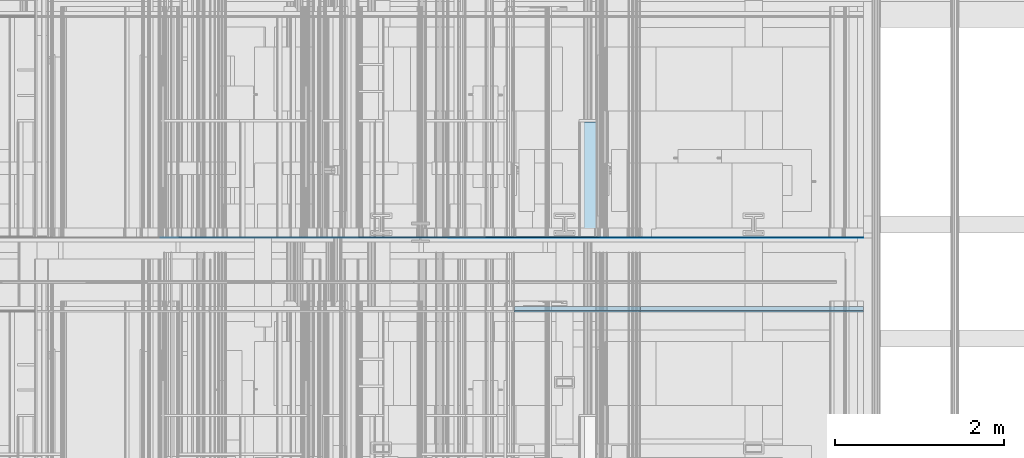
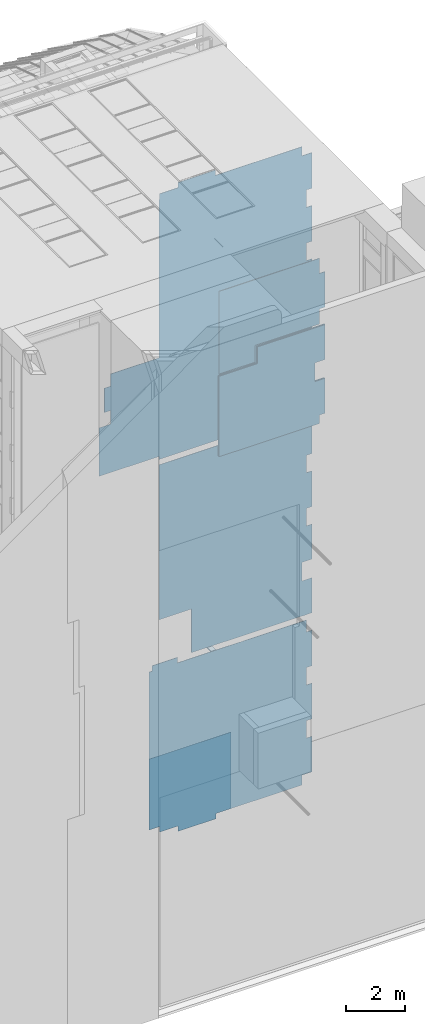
# One storey, part 255 of 583: 13 slabs.
"""IFC2X3 building model written with IfcOpenShell, lengths in metres."""

import ifcopenshell
import ifcopenshell.guid

model = None  # the IFC model being written
_history = None  # IfcOwnerHistory: only IFC2X3 demands one
_inside = {}  # id of a spatial element -> (the spatial element, [elements in it])
_under = {}  # id of a project, library or spatial element -> (it, [spatial elements below it])
_declared = {}  # id of a project -> (the project, [libraries it declares])
_typed = {}  # id of a type object -> (the type object, [elements of that type])
_made_of = {}  # id of a material, layer set ... -> (it, [elements and type objects made of it])


def new_model(schema):
    """Start an empty IFC model of exactly this schema.

    Asked for "IFC4X3", IfcOpenShell would pick the latest addendum, in which some entities
    have other attributes; the version numbers below select the first issue.
    IFC2X3 requires an IfcOwnerHistory on every rooted entity: one is made here for all.
    """
    global model, _history
    if schema == "IFC4X3":
        model = ifcopenshell.file(schema_version=(4, 3, 0, 0))
    else:
        model = ifcopenshell.file(schema=schema)
    _inside.clear()
    _under.clear()
    _declared.clear()
    _typed.clear()
    _made_of.clear()
    _history = None
    if model.schema == "IFC2X3":
        org = make("IfcOrganization", Name="unknown")
        user = make(
            "IfcPersonAndOrganization",
            ThePerson=make("IfcPerson", FamilyName="unknown"),
            TheOrganization=org,
        )
        app = make(
            "IfcApplication",
            ApplicationDeveloper=org,
            Version="unknown",
            ApplicationFullName="unknown",
            ApplicationIdentifier="unknown",
        )
        _history = make(
            "IfcOwnerHistory",
            OwningUser=user,
            OwningApplication=app,
            ChangeAction="ADDED",
            CreationDate=0,
        )
    return model


def make(cls, **values):
    """One entity of the class cls with the attributes given. An attribute that is None is left unset."""
    return model.create_entity(
        cls, **{name: value for name, value in values.items() if value is not None}
    )


def entity(cls, *values):
    """Any entity or typed value of the class cls, its attributes in the order of the schema. None: left unset."""
    e = model.create_entity(cls)
    for i, value in enumerate(values):
        if value is not None:
            e[i] = value
    return e


def rooted(cls, **values):
    """An entity with a GlobalId (a new one), such as an element, a storey or a relation."""
    return make(cls, GlobalId=ifcopenshell.guid.new(), OwnerHistory=_history, **values)


def si_unit(unit_type, name, prefix=None):
    """IfcSIUnit, for example si_unit("LENGTHUNIT", "METRE", prefix="MILLI")."""
    return make("IfcSIUnit", UnitType=unit_type, Prefix=prefix, Name=name)


def converted_unit(unit_type, name, factor, base, dimensions=None, offset=None):
    """IfcConversionBasedUnit, such as the inch: factor (a typed value) times the base unit."""
    return make(
        "IfcConversionBasedUnit"
        if offset is None
        else "IfcConversionBasedUnitWithOffset",
        ConversionOffset=offset,
        Dimensions=None
        if dimensions is None
        else entity("IfcDimensionalExponents", *dimensions),
        UnitType=unit_type,
        Name=name,
        ConversionFactor=make(
            "IfcMeasureWithUnit", ValueComponent=factor, UnitComponent=base
        ),
    )


def derived_unit(unit_type, elements):
    """IfcDerivedUnit: a product of units, each with its exponent."""
    return make(
        "IfcDerivedUnit",
        Elements=[
            make("IfcDerivedUnitElement", Unit=unit, Exponent=power)
            for unit, power in elements
        ],
        UnitType=unit_type,
    )


def money_unit(currency):
    """IfcMonetaryUnit."""
    return make("IfcMonetaryUnit", Currency=currency)


def assignment(units):
    """IfcUnitAssignment: the units of a project."""
    return None if units is None else make("IfcUnitAssignment", Units=units)


def point(xyz):
    """IfcCartesianPoint."""
    return None if xyz is None else make("IfcCartesianPoint", Coordinates=xyz)


def direction(xyz):
    """IfcDirection."""
    return None if xyz is None else make("IfcDirection", DirectionRatios=xyz)


def frame(location, z_axis=None, x_axis=None):
    """IfcAxis2Placement3D, a coordinate frame: its origin and axes. An axis left out is left unset."""
    return make(
        "IfcAxis2Placement3D",
        Location=point(location),
        Axis=direction(z_axis),
        RefDirection=direction(x_axis),
    )


def origin_with_axes():
    """The frame at (0, 0, 0) with the z axis (0, 0, 1) and the x axis (1, 0, 0) written out."""
    return frame((0.0, 0.0, 0.0), z_axis=(0.0, 0.0, 1.0), x_axis=(1.0, 0.0, 0.0))


def place(relative_to, where):
    """IfcLocalPlacement: puts the frame where relative to a parent placement (None: the world)."""
    return make(
        "IfcLocalPlacement", PlacementRelTo=relative_to, RelativePlacement=where
    )


def context(
    kind, dimensions, precision=None, world=None, true_north=None, identifier=None
):
    """IfcGeometricRepresentationContext, for example the 3D "Model" context."""
    return make(
        "IfcGeometricRepresentationContext",
        ContextIdentifier=identifier,
        ContextType=kind,
        CoordinateSpaceDimension=dimensions,
        Precision=precision,
        WorldCoordinateSystem=world,
        TrueNorth=true_north,
    )


def subcontext(parent, identifier, kind, view, scale=None):
    """IfcGeometricRepresentationSubContext, for example "Body" below "Model"."""
    return make(
        "IfcGeometricRepresentationSubContext",
        ContextIdentifier=identifier,
        ContextType=kind,
        ParentContext=parent,
        TargetScale=scale,
        TargetView=view,
    )


def project(units=None, contexts=None):
    """IfcProject with its units and contexts."""
    return rooted(
        "IfcProject",
        Name="project",
        RepresentationContexts=contexts,
        UnitsInContext=assignment(units),
    )


def spatial(cls, under=None, at=None, **own):
    """A site, building, storey or space (cls), placed at a placement, below another one or the project."""
    s = rooted(cls, ObjectPlacement=at, **own)
    if under is not None:
        _under.setdefault(under.id(), (under, []))[1].append(s)
    return s


def faces_of(points, faces, orient=None, outer=None):
    """IfcFace entities. A face is a list of loops; a loop is a list of indices into points, from 0.

    orient and outer hold one flag for each loop. By default every Orientation is true, the
    first loop of a face is its IfcFaceOuterBound and the others are IfcFaceBound.
    """
    made = []
    for i, loops in enumerate(faces):
        bounds = []
        for j, loop in enumerate(loops):
            is_outer = j == 0 if outer is None else outer[i][j]
            bounds.append(
                make(
                    "IfcFaceOuterBound" if is_outer else "IfcFaceBound",
                    Bound=make("IfcPolyLoop", Polygon=[points[k] for k in loop]),
                    Orientation=True if orient is None else orient[i][j],
                )
            )
        made.append(make("IfcFace", Bounds=bounds))
    return made


def faceted_brep(points, faces, orient=None, outer=None, voids=None):
    """IfcFacetedBrep: a solid bounded by flat faces; with voids (closed shells), ...WithVoids."""
    shared = [point(p) for p in points]
    hull = make("IfcClosedShell", CfsFaces=faces_of(shared, faces, orient, outer))
    if voids is None:
        return make("IfcFacetedBrep", Outer=hull)
    return make(
        "IfcFacetedBrepWithVoids",
        Outer=hull,
        Voids=[
            make(cls, CfsFaces=faces_of(shared, fs, o, b)) for cls, fs, o, b in voids
        ],
    )


def shape(context_of_items, identifier, shape_type, items):
    """IfcShapeRepresentation: the items that make up one representation, for example the "Body"."""
    return make(
        "IfcShapeRepresentation",
        ContextOfItems=context_of_items,
        RepresentationIdentifier=identifier,
        RepresentationType=shape_type,
        Items=items,
    )


def material(Name=None, Category=None):
    """IfcMaterial."""
    return make("IfcMaterial", Name=Name, Category=Category)


def made_of(thing, what):
    """Note that an element or type object is made of a material, layer set ...; save() writes the relation."""
    if what is not None:
        _made_of.setdefault(what.id(), (what, []))[1].append(thing)
    return thing


def type_object(cls, material=None, **own):
    """A type object (cls), such as IfcWallType, which elements share."""
    return made_of(rooted(cls, **own), material)


def element(
    cls,
    number,
    at=None,
    inside=None,
    cuts=None,
    type_object=None,
    material=None,
    context=None,
    identifier="Body",
    shape_type=None,
    held_by="IfcProductDefinitionShape",
    body=None,
    shapes=None,
    **own,
):
    """One element of the class cls, such as IfcWall. Its Tag is "e" and its number.

    at: its placement. inside: the storey or other place that contains it. cuts: it is an
    opening in that element (IfcRelVoidsElement). A single representation is given by context,
    identifier, shape_type and body (its items); several are given by shapes. held_by: the class
    of the entity that holds the representations. save() writes the other relations.
    """
    e = rooted(cls, Tag="e%d" % number, ObjectPlacement=at, **own)
    if body is not None:
        shapes = [shape(context, identifier, shape_type, body)]
    if shapes is not None:
        e.Representation = make(held_by, Representations=shapes)
    if inside is not None:
        _inside.setdefault(inside.id(), (inside, []))[1].append(e)
    if cuts is not None:
        rooted(
            "IfcRelVoidsElement", RelatingBuildingElement=cuts, RelatedOpeningElement=e
        )
    if type_object is not None:
        _typed.setdefault(type_object.id(), (type_object, []))[1].append(e)
    return made_of(e, material)


def aggregate(whole, parts):
    """IfcRelAggregates: a whole, such as a stair, and the parts it consists of."""
    return rooted("IfcRelAggregates", RelatingObject=whole, RelatedObjects=parts)


def save(model, path):
    """Write the relations noted so far, then the file.

    IfcRelAggregates (storeys below a building ...), IfcRelContainedInSpatialStructure (elements
    in a storey), IfcRelDefinesByType, IfcRelAssociatesMaterial and IfcRelDeclares: one each for
    every whole, place, type object, material and project.
    """
    for whole, parts in _under.values():
        aggregate(whole, parts)
    for where, things in _inside.values():
        rooted(
            "IfcRelContainedInSpatialStructure",
            RelatedElements=things,
            RelatingStructure=where,
        )
    for kind, things in _typed.values():
        rooted("IfcRelDefinesByType", RelatedObjects=things, RelatingType=kind)
    for what, things in _made_of.values():
        rooted("IfcRelAssociatesMaterial", RelatedObjects=things, RelatingMaterial=what)
    for by, libraries in _declared.values():
        rooted("IfcRelDeclares", RelatingContext=by, RelatedDefinitions=libraries)
    model.write(path)


model = new_model("IFC2X3")

# Units and contexts
model_context = context("Model", 3, precision=1e-05, world=origin_with_axes(), true_north=direction((0.0, 1.0)))
body_context = subcontext(model_context, "Body", "Model", "MODEL_VIEW", scale=1.0)
ifc_project = project(units=[si_unit("LENGTHUNIT", "METRE"), si_unit("AREAUNIT", "SQUARE_METRE"), si_unit("VOLUMEUNIT", "CUBIC_METRE"), si_unit("ABSORBEDDOSEUNIT", "GRAY"), si_unit("AMOUNTOFSUBSTANCEUNIT", "MOLE"), si_unit("DOSEEQUIVALENTUNIT", "SIEVERT"), si_unit("ELECTRICCAPACITANCEUNIT", "FARAD"), si_unit("ELECTRICCHARGEUNIT", "COULOMB"), si_unit("ELECTRICCONDUCTANCEUNIT", "SIEMENS"), si_unit("ELECTRICCURRENTUNIT", "AMPERE"), si_unit("ELECTRICRESISTANCEUNIT", "OHM"), si_unit("ELECTRICVOLTAGEUNIT", "VOLT"), si_unit("ENERGYUNIT", "JOULE"), si_unit("FORCEUNIT", "NEWTON"), si_unit("FREQUENCYUNIT", "HERTZ"), si_unit("ILLUMINANCEUNIT", "LUX"), si_unit("INDUCTANCEUNIT", "HENRY"), si_unit("LUMINOUSFLUXUNIT", "LUMEN"), si_unit("LUMINOUSINTENSITYUNIT", "CANDELA"), si_unit("MAGNETICFLUXDENSITYUNIT", "TESLA"), si_unit("MAGNETICFLUXUNIT", "WEBER"), si_unit("MASSUNIT", "GRAM"), converted_unit("PLANEANGLEUNIT", "degree", entity("IfcReal", 0.0174532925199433), si_unit("PLANEANGLEUNIT", "RADIAN"), dimensions=[0, 0, 0, 0, 0, 0, 0]), si_unit("POWERUNIT", "WATT"), si_unit("PRESSUREUNIT", "PASCAL"), si_unit("RADIOACTIVITYUNIT", "BECQUEREL"), si_unit("SOLIDANGLEUNIT", "STERADIAN"), si_unit("THERMODYNAMICTEMPERATUREUNIT", "KELVIN"), si_unit("TIMEUNIT", "SECOND"), derived_unit("ACCELERATIONUNIT", [(si_unit("LENGTHUNIT", "METRE"), 1), (si_unit("TIMEUNIT", "SECOND"), -2)]), derived_unit("ANGULARVELOCITYUNIT", [(converted_unit("PLANEANGLEUNIT", "degree", entity("IfcReal", 0.0174532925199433), si_unit("PLANEANGLEUNIT", "RADIAN"), dimensions=[0, 0, 0, 0, 0, 0, 0]), 1), (si_unit("TIMEUNIT", "SECOND"), -1)]), derived_unit("CURVATUREUNIT", [(converted_unit("PLANEANGLEUNIT", "degree", entity("IfcReal", 0.0174532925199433), si_unit("PLANEANGLEUNIT", "RADIAN"), dimensions=[0, 0, 0, 0, 0, 0, 0]), 1), (si_unit("LENGTHUNIT", "METRE"), -1)]), derived_unit("DYNAMICVISCOSITYUNIT", [(si_unit("PRESSUREUNIT", "PASCAL"), 1), (si_unit("TIMEUNIT", "SECOND"), 1)]), derived_unit("HEATFLUXDENSITYUNIT", [(si_unit("POWERUNIT", "WATT"), 1), (si_unit("LENGTHUNIT", "METRE"), -2)]), derived_unit("HEATINGVALUEUNIT", [(si_unit("ENERGYUNIT", "JOULE"), 1), (si_unit("MASSUNIT", "GRAM"), -1)]), derived_unit("INTEGERCOUNTRATEUNIT", [(si_unit("TIMEUNIT", "SECOND"), -1)]), derived_unit("IONCONCENTRATIONUNIT", [(si_unit("MASSUNIT", "GRAM"), 1), (si_unit("VOLUMEUNIT", "CUBIC_METRE"), -1)]), derived_unit("ISOTHERMALMOISTURECAPACITYUNIT", [(si_unit("VOLUMEUNIT", "CUBIC_METRE"), 1), (si_unit("MASSUNIT", "GRAM"), -1)]), derived_unit("KINEMATICVISCOSITYUNIT", [(si_unit("AREAUNIT", "SQUARE_METRE"), 1), (si_unit("TIMEUNIT", "SECOND"), -1)]), derived_unit("LINEARFORCEUNIT", [(si_unit("FORCEUNIT", "NEWTON"), 1), (si_unit("LENGTHUNIT", "METRE"), -1)]), derived_unit("LINEARMOMENTUNIT", [(si_unit("FORCEUNIT", "NEWTON"), 1), (si_unit("LENGTHUNIT", "METRE"), -1)]), derived_unit("LINEARSTIFFNESSUNIT", [(si_unit("FORCEUNIT", "NEWTON"), 1), (si_unit("LENGTHUNIT", "METRE"), -1)]), derived_unit("LINEARVELOCITYUNIT", [(si_unit("LENGTHUNIT", "METRE"), 1), (si_unit("TIMEUNIT", "SECOND"), -1)]), derived_unit("LUMINOUSINTENSITYDISTRIBUTIONUNIT", [(si_unit("LUMINOUSINTENSITYUNIT", "CANDELA"), 1), (si_unit("LUMINOUSFLUXUNIT", "LUMEN"), -1)]), derived_unit("MASSDENSITYUNIT", [(si_unit("MASSUNIT", "GRAM"), 1), (si_unit("VOLUMEUNIT", "CUBIC_METRE"), -1)]), derived_unit("MASSFLOWRATEUNIT", [(si_unit("MASSUNIT", "GRAM"), 1), (si_unit("TIMEUNIT", "SECOND"), -1)]), derived_unit("MASSPERLENGTHUNIT", [(si_unit("MASSUNIT", "GRAM"), 1), (si_unit("LENGTHUNIT", "METRE"), -1)]), derived_unit("MODULUSOFELASTICITYUNIT", [(si_unit("FORCEUNIT", "NEWTON"), 1), (si_unit("AREAUNIT", "SQUARE_METRE"), -1)]), derived_unit("MODULUSOFLINEARSUBGRADEREACTIONUNIT", [(si_unit("FORCEUNIT", "NEWTON"), 1), (si_unit("LENGTHUNIT", "METRE"), -2)]), derived_unit("MODULUSOFROTATIONALSUBGRADEREACTIONUNIT", [(si_unit("FORCEUNIT", "NEWTON"), 1), (si_unit("LENGTHUNIT", "METRE"), 1)]), derived_unit("MODULUSOFSUBGRADEREACTIONUNIT", [(si_unit("FORCEUNIT", "NEWTON"), 1), (si_unit("VOLUMEUNIT", "CUBIC_METRE"), -1)]), derived_unit("MOISTUREDIFFUSIVITYUNIT", [(si_unit("VOLUMEUNIT", "CUBIC_METRE"), 1), (si_unit("TIMEUNIT", "SECOND"), -1)]), derived_unit("MOLECULARWEIGHTUNIT", [(si_unit("MASSUNIT", "GRAM"), 1), (si_unit("AMOUNTOFSUBSTANCEUNIT", "MOLE"), -1)]), derived_unit("PLANARFORCEUNIT", [(si_unit("FORCEUNIT", "NEWTON"), 1), (si_unit("LENGTHUNIT", "METRE"), -2)]), derived_unit("ROTATIONALFREQUENCYUNIT", [(si_unit("TIMEUNIT", "SECOND"), -1)]), derived_unit("ROTATIONALMASSUNIT", [(si_unit("MASSUNIT", "GRAM"), 1), (si_unit("LENGTHUNIT", "METRE"), 2)]), derived_unit("ROTATIONALSTIFFNESSUNIT", [(si_unit("FORCEUNIT", "NEWTON"), 1), (si_unit("LENGTHUNIT", "METRE"), 1), (converted_unit("PLANEANGLEUNIT", "degree", entity("IfcReal", 0.0174532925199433), si_unit("PLANEANGLEUNIT", "RADIAN"), dimensions=[0, 0, 0, 0, 0, 0, 0]), -1)]), derived_unit("SECTIONAREAINTEGRALUNIT", [(si_unit("LENGTHUNIT", "METRE"), 5)]), derived_unit("SECTIONMODULUSUNIT", [(si_unit("LENGTHUNIT", "METRE"), 3)]), derived_unit("SHEARMODULUSUNIT", [(si_unit("FORCEUNIT", "NEWTON"), 1), (si_unit("AREAUNIT", "SQUARE_METRE"), -1)]), derived_unit("SOUNDPOWERUNIT", [(si_unit("ENERGYUNIT", "JOULE"), 1), (si_unit("TIMEUNIT", "SECOND"), -1)]), derived_unit("SPECIFICHEATCAPACITYUNIT", [(si_unit("FORCEUNIT", "NEWTON"), 1), (si_unit("MASSUNIT", "GRAM"), -1), (si_unit("THERMODYNAMICTEMPERATUREUNIT", "KELVIN"), -1)]), derived_unit("TEMPERATUREGRADIENTUNIT", [(si_unit("THERMODYNAMICTEMPERATUREUNIT", "KELVIN"), 1), (si_unit("LENGTHUNIT", "METRE"), -1)]), derived_unit("THERMALADMITTANCEUNIT", [(si_unit("POWERUNIT", "WATT"), 1), (si_unit("AREAUNIT", "SQUARE_METRE"), -1), (si_unit("THERMODYNAMICTEMPERATUREUNIT", "KELVIN"), -1)]), derived_unit("THERMALCONDUCTANCEUNIT", [(si_unit("POWERUNIT", "WATT"), 1), (si_unit("LENGTHUNIT", "METRE"), -1), (si_unit("THERMODYNAMICTEMPERATUREUNIT", "KELVIN"), -1)]), derived_unit("THERMALEXPANSIONCOEFFICIENTUNIT", [(si_unit("THERMODYNAMICTEMPERATUREUNIT", "KELVIN"), -1)]), derived_unit("THERMALRESISTANCEUNIT", [(si_unit("AREAUNIT", "SQUARE_METRE"), 1), (si_unit("POWERUNIT", "WATT"), -1)]), derived_unit("THERMALTRANSMITTANCEUNIT", [(si_unit("POWERUNIT", "WATT"), 1), (si_unit("AREAUNIT", "SQUARE_METRE"), -1), (si_unit("THERMODYNAMICTEMPERATUREUNIT", "KELVIN"), -1)]), derived_unit("TORQUEUNIT", [(si_unit("FORCEUNIT", "NEWTON"), 1), (si_unit("LENGTHUNIT", "METRE"), 1)]), derived_unit("VAPORPERMEABILITYUNIT", [(si_unit("MASSUNIT", "GRAM"), 1), (si_unit("TIMEUNIT", "SECOND"), -1)]), derived_unit("VOLUMETRICFLOWRATEUNIT", [(si_unit("VOLUMEUNIT", "CUBIC_METRE"), 1), (si_unit("TIMEUNIT", "SECOND"), -1)]), derived_unit("WARPINGCONSTANTUNIT", [(si_unit("LENGTHUNIT", "METRE"), 6)]), derived_unit("WARPINGMOMENTUNIT", [(si_unit("FORCEUNIT", "NEWTON"), 1), (si_unit("LENGTHUNIT", "METRE"), 2)]), money_unit("GBP")], contexts=[model_context])

# Site, building, storey
site_placement = place(None, origin_with_axes())
site = spatial("IfcSite", under=ifc_project, at=site_placement, Name="Site", CompositionType="ELEMENT")
building_placement = place(site_placement, origin_with_axes())
building = spatial("IfcBuilding", under=site, at=building_placement, Name="Building01", CompositionType="ELEMENT")
storey_placement = place(building_placement, frame((0.0, 0.0, 20.78), z_axis=(0.0, 0.0, 1.0), x_axis=(1.0, 0.0, 0.0)))
storey = spatial("IfcBuildingStorey", under=building, at=storey_placement, Name="RL", CompositionType="ELEMENT", Elevation=20.78)

# Slabs
ifc_material_1 = material(Name="A_BSUK_CeilingSoffitFinishes_Suspended")
slab_type_1 = type_object("IfcSlabType", Name="A-FloorsSlabs A_BSUK_Slabs", PredefinedType="FLOOR")
placement = place(storey_placement, frame((0.0, 0.0, -20.78), z_axis=(0.0, 0.0, 1.0), x_axis=(1.0, 0.0, 0.0)))
element("IfcSlab", 1, at=placement, inside=storey, type_object=slab_type_1, material=ifc_material_1, Name="A-FloorsSlabs A_BSUK_Slabs", ObjectType="CompoundSlabLeaf", context=body_context, shape_type="Brep", body=[
    faceted_brep([(10.665, 7.765, 15.708132), (10.665, 7.78, 15.708132), (14.582, 7.78, 15.708132), (14.582, 7.765, 15.708132), (10.665, 7.765, 19.025284), (10.665, 7.78, 19.025284), (12.159378, 7.765, 19.025284), (12.159378, 7.78, 19.025284), (12.159378, 7.765, 19.715), (12.159378, 7.78, 19.715), (14.8, 7.765, 19.715), (14.8, 7.78, 19.715), (14.8, 7.765, 18.268), (14.8, 7.78, 18.268), (14.402, 7.765, 18.268), (14.402, 7.78, 18.268), (14.402, 7.765, 17.502), (14.402, 7.78, 17.502), (14.8, 7.765, 17.502), (14.8, 7.78, 17.502), (14.8, 7.765, 16.055), (14.8, 7.78, 16.055), (14.582, 7.765, 16.055), (14.582, 7.78, 16.055)], [[[0, 1, 2, 3]], [[4, 5, 1, 0]], [[6, 7, 5, 4]], [[8, 9, 7, 6]], [[10, 11, 9, 8]], [[12, 13, 11, 10]], [[14, 15, 13, 12]], [[16, 17, 15, 14]], [[18, 19, 17, 16]], [[20, 21, 19, 18]], [[22, 23, 21, 20]], [[3, 2, 23, 22]], [[1, 5, 7, 9, 11, 13, 15, 17, 19, 21, 23, 2]], [[3, 22, 20, 18, 16, 14, 12, 10, 8, 6, 4, 0]]]),
])
element("IfcSlab", 2, at=placement, inside=storey, type_object=slab_type_1, material=ifc_material_1, Name="A-FloorsSlabs A_BSUK_Slabs", ObjectType="CompoundSlabLeaf", context=body_context, shape_type="Brep", body=[
    faceted_brep([(12.064378, 7.765, 19.81), (12.064378, 7.78, 19.81), (14.582, 7.78, 19.81), (14.582, 7.765, 19.81), (12.064378, 7.765, 19.120284), (12.064378, 7.78, 19.120284), (10.665, 7.765, 19.120284), (10.665, 7.78, 19.120284), (10.665, 7.765, 22.53), (10.665, 7.78, 22.53), (14.582, 7.765, 22.53), (14.582, 7.78, 22.53), (14.582, 7.765, 21.905), (14.582, 7.78, 21.905), (14.8, 7.765, 21.905), (14.8, 7.78, 21.905), (14.8, 7.765, 20.435), (14.8, 7.78, 20.435), (14.582, 7.765, 20.435), (14.582, 7.78, 20.435)], [[[0, 1, 2, 3]], [[4, 5, 1, 0]], [[6, 7, 5, 4]], [[8, 9, 7, 6]], [[10, 11, 9, 8]], [[12, 13, 11, 10]], [[14, 15, 13, 12]], [[16, 17, 15, 14]], [[18, 19, 17, 16]], [[3, 2, 19, 18]], [[1, 5, 7, 9, 11, 13, 15, 17, 19, 2]], [[3, 18, 16, 14, 12, 10, 8, 6, 4, 0]]]),
])
ifc_material_2 = material(Name="A_BSUK_ExpandedPolystyreneBoards")
element("IfcSlab", 3, at=placement, inside=storey, type_object=slab_type_1, material=ifc_material_2, Name="A-FloorsSlabs A_BSUK_Slabs", ObjectType="CompoundSlabLeaf", context=body_context, shape_type="Brep", body=[
    faceted_brep([(14.402, 8.64, 0.725), (14.402, 8.643, 0.725), (14.8, 8.643, 0.725), (14.8, 8.64, 0.725), (14.402, 8.64, 0.318), (14.402, 8.643, 0.318), (11.055, 8.64, 0.318), (11.055, 8.643, 0.318), (11.055, 8.64, 0.1), (11.055, 8.643, 0.1), (9.56218, 8.64, 0.1), (9.56218, 8.643, 0.1), (9.56218, 8.64, 0.318), (9.56218, 8.643, 0.318), (8.848, 8.64, 0.318), (8.848, 8.643, 0.318), (8.848, 8.64, 0.548), (8.848, 8.643, 0.548), (8.43567, 8.64, 0.548), (8.43567, 8.643, 0.548), (8.43567, 8.64, 7.064669), (8.43567, 8.643, 7.064669), (8.550704, 8.64, 7.064669), (8.550704, 8.643, 7.064669), (8.550704, 8.64, 7.289669), (8.550704, 8.643, 7.289669), (9.550704, 8.64, 7.289669), (9.550704, 8.643, 7.289669), (9.550704, 8.64, 7.064669), (9.550704, 8.643, 7.064669), (14.582, 8.64, 7.064669), (14.582, 8.643, 7.064669), (14.582, 8.64, 6.574876), (14.582, 8.643, 6.574876), (14.8, 8.64, 6.574876), (14.8, 8.643, 6.574876), (14.8, 8.64, 5.105), (14.8, 8.643, 5.105), (14.582, 8.64, 5.105), (14.582, 8.643, 5.105), (14.582, 8.64, 4.385), (14.582, 8.643, 4.385), (14.8, 8.64, 4.385), (14.8, 8.643, 4.385), (14.8, 8.64, 2.915), (14.8, 8.643, 2.915), (14.582, 8.64, 2.915), (14.582, 8.643, 2.915), (14.582, 8.64, 2.195), (14.582, 8.643, 2.195), (14.8, 8.64, 2.195), (14.8, 8.643, 2.195)], [[[0, 1, 2, 3]], [[4, 5, 1, 0]], [[6, 7, 5, 4]], [[8, 9, 7, 6]], [[10, 11, 9, 8]], [[12, 13, 11, 10]], [[14, 15, 13, 12]], [[16, 17, 15, 14]], [[18, 19, 17, 16]], [[20, 21, 19, 18]], [[22, 23, 21, 20]], [[24, 25, 23, 22]], [[26, 27, 25, 24]], [[28, 29, 27, 26]], [[30, 31, 29, 28]], [[32, 33, 31, 30]], [[34, 35, 33, 32]], [[36, 37, 35, 34]], [[38, 39, 37, 36]], [[40, 41, 39, 38]], [[42, 43, 41, 40]], [[44, 45, 43, 42]], [[46, 47, 45, 44]], [[48, 49, 47, 46]], [[50, 51, 49, 48]], [[3, 2, 51, 50]], [[1, 5, 7, 9, 11, 13, 15, 17, 19, 21, 23, 25, 27, 29, 31, 33, 35, 37, 39, 41, 43, 45, 47, 49, 51, 2]], [[3, 50, 48, 46, 44, 42, 40, 38, 36, 34, 32, 30, 28, 26, 24, 22, 20, 18, 16, 14, 12, 10, 8, 6, 4, 0]]]),
])
element("IfcSlab", 4, at=placement, inside=storey, type_object=slab_type_1, material=ifc_material_2, Name="A-FloorsSlabs A_BSUK_Slabs", ObjectType="CompoundSlabLeaf", context=body_context, shape_type="Brep", body=[
    faceted_brep([(10.087704, 8.64, 7.289669), (10.087704, 8.643, 7.289669), (14.582, 8.643, 7.289669), (14.582, 8.64, 7.289669), (10.087704, 8.64, 9.09), (10.087704, 8.643, 9.09), (9.200704, 8.64, 9.09), (9.200704, 8.643, 9.09), (8.82, 8.64, 9.09), (8.82, 8.643, 9.09), (8.82, 8.64, 12.893585), (8.82, 8.643, 12.893585), (8.82, 8.64, 15.483132), (8.82, 8.643, 15.483132), (14.582, 8.64, 15.483132), (14.582, 8.643, 15.483132), (14.582, 8.64, 15.335), (14.582, 8.643, 15.335), (14.8, 8.64, 15.335), (14.8, 8.643, 15.335), (14.8, 8.64, 13.865), (14.8, 8.643, 13.865), (14.582, 8.64, 13.865), (14.582, 8.643, 13.865), (14.582, 8.64, 13.145), (14.582, 8.643, 13.145), (14.8, 8.64, 13.145), (14.8, 8.643, 13.145), (14.8, 8.64, 11.675), (14.8, 8.643, 11.675), (14.582, 8.64, 11.675), (14.582, 8.643, 11.675), (14.582, 8.64, 10.955), (14.582, 8.643, 10.955), (14.8, 8.64, 10.955), (14.8, 8.643, 10.955), (14.8, 8.64, 9.508), (14.8, 8.643, 9.508), (14.402, 8.64, 9.508), (14.402, 8.643, 9.508), (14.402, 8.64, 8.742), (14.402, 8.643, 8.742), (14.8, 8.64, 8.742), (14.8, 8.643, 8.742), (14.8, 8.64, 7.295), (14.8, 8.643, 7.295), (14.582, 8.64, 7.295), (14.582, 8.643, 7.295)], [[[0, 1, 2, 3]], [[4, 5, 1, 0]], [[6, 7, 5, 4]], [[8, 9, 7, 6]], [[10, 11, 9, 8]], [[12, 13, 11, 10]], [[14, 15, 13, 12]], [[16, 17, 15, 14]], [[18, 19, 17, 16]], [[20, 21, 19, 18]], [[22, 23, 21, 20]], [[24, 25, 23, 22]], [[26, 27, 25, 24]], [[28, 29, 27, 26]], [[30, 31, 29, 28]], [[32, 33, 31, 30]], [[34, 35, 33, 32]], [[36, 37, 35, 34]], [[38, 39, 37, 36]], [[40, 41, 39, 38]], [[42, 43, 41, 40]], [[44, 45, 43, 42]], [[46, 47, 45, 44]], [[3, 2, 47, 46]], [[1, 5, 7, 9, 11, 13, 15, 17, 19, 21, 23, 25, 27, 29, 31, 33, 35, 37, 39, 41, 43, 45, 47, 2]], [[3, 46, 44, 42, 40, 38, 36, 34, 32, 30, 28, 26, 24, 22, 20, 18, 16, 14, 12, 10, 8, 6, 4, 0]]]),
])
element("IfcSlab", 5, at=placement, inside=storey, type_object=slab_type_1, material=ifc_material_2, Name="A-FloorsSlabs A_BSUK_Slabs", ObjectType="CompoundSlabLeaf", context=body_context, shape_type="Brep", body=[
    faceted_brep([(8.82, 8.64, 15.83), (8.82, 8.643, 15.83), (8.82, 8.643, 15.708132), (8.82, 8.64, 15.708132), (8.65, 8.64, 15.83), (8.65, 8.643, 15.83), (6.475, 8.64, 15.83), (6.475, 8.643, 15.83), (6.475, 8.64, 17.83), (6.475, 8.643, 17.83), (6.93, 8.64, 17.83), (6.93, 8.643, 17.83), (6.93, 8.64, 18.0), (6.93, 8.643, 18.0), (6.93, 8.64, 18.392), (6.93, 8.643, 18.392), (6.69, 8.64, 18.392), (6.69, 8.643, 18.392), (6.69, 8.64, 19.392), (6.69, 8.643, 19.392), (6.93, 8.64, 19.392), (6.93, 8.643, 19.392), (6.93, 8.64, 19.897661), (6.93, 8.643, 19.897661), (8.82, 8.64, 19.897661), (8.82, 8.643, 19.897661), (8.82, 8.64, 26.432), (8.82, 8.643, 26.432), (8.848, 8.64, 26.432), (8.848, 8.643, 26.432), (8.848, 8.64, 26.662), (8.848, 8.643, 26.662), (9.56218, 8.64, 26.662), (9.56218, 8.643, 26.662), (9.56218, 8.64, 26.88), (9.56218, 8.643, 26.88), (11.03218, 8.64, 26.88), (11.03218, 8.643, 26.88), (11.03218, 8.64, 26.662), (11.03218, 8.643, 26.662), (14.402, 8.64, 26.662), (14.402, 8.643, 26.662), (14.402, 8.64, 26.285), (14.402, 8.643, 26.285), (14.8, 8.64, 26.285), (14.8, 8.643, 26.285), (14.8, 8.64, 24.815), (14.8, 8.643, 24.815), (14.582, 8.64, 24.815), (14.582, 8.643, 24.815), (14.582, 8.64, 24.095), (14.582, 8.643, 24.095), (14.8, 8.64, 24.095), (14.8, 8.643, 24.095), (14.8, 8.64, 22.625), (14.8, 8.643, 22.625), (14.582, 8.64, 22.625), (14.582, 8.643, 22.625), (14.582, 8.64, 21.905), (14.582, 8.643, 21.905), (14.8, 8.64, 21.905), (14.8, 8.643, 21.905), (14.8, 8.64, 20.435), (14.8, 8.643, 20.435), (14.582, 8.64, 20.435), (14.582, 8.643, 20.435), (14.582, 8.64, 19.715), (14.582, 8.643, 19.715), (14.8, 8.64, 19.715), (14.8, 8.643, 19.715), (14.8, 8.64, 18.268), (14.8, 8.643, 18.268), (14.402, 8.64, 18.268), (14.402, 8.643, 18.268), (14.402, 8.64, 17.502), (14.402, 8.643, 17.502), (14.8, 8.64, 17.502), (14.8, 8.643, 17.502), (14.8, 8.64, 16.055), (14.8, 8.643, 16.055), (14.582, 8.64, 16.055), (14.582, 8.643, 16.055), (14.582, 8.64, 15.708132), (14.582, 8.643, 15.708132)], [[[0, 1, 2, 3]], [[4, 5, 1, 0]], [[6, 7, 5, 4]], [[8, 9, 7, 6]], [[10, 11, 9, 8]], [[12, 13, 11, 10]], [[14, 15, 13, 12]], [[16, 17, 15, 14]], [[18, 19, 17, 16]], [[20, 21, 19, 18]], [[22, 23, 21, 20]], [[24, 25, 23, 22]], [[26, 27, 25, 24]], [[28, 29, 27, 26]], [[30, 31, 29, 28]], [[32, 33, 31, 30]], [[34, 35, 33, 32]], [[36, 37, 35, 34]], [[38, 39, 37, 36]], [[40, 41, 39, 38]], [[42, 43, 41, 40]], [[44, 45, 43, 42]], [[46, 47, 45, 44]], [[48, 49, 47, 46]], [[50, 51, 49, 48]], [[52, 53, 51, 50]], [[54, 55, 53, 52]], [[56, 57, 55, 54]], [[58, 59, 57, 56]], [[60, 61, 59, 58]], [[62, 63, 61, 60]], [[64, 65, 63, 62]], [[66, 67, 65, 64]], [[68, 69, 67, 66]], [[70, 71, 69, 68]], [[72, 73, 71, 70]], [[74, 75, 73, 72]], [[76, 77, 75, 74]], [[78, 79, 77, 76]], [[80, 81, 79, 78]], [[82, 83, 81, 80]], [[3, 2, 83, 82]], [[1, 5, 7, 9, 11, 13, 15, 17, 19, 21, 23, 25, 27, 29, 31, 33, 35, 37, 39, 41, 43, 45, 47, 49, 51, 53, 55, 57, 59, 61, 63, 65, 67, 69, 71, 73, 75, 77, 79, 81, 83, 2]], [[3, 82, 80, 78, 76, 74, 72, 70, 68, 66, 64, 62, 60, 58, 56, 54, 52, 50, 48, 46, 44, 42, 40, 38, 36, 34, 32, 30, 28, 26, 24, 22, 20, 18, 16, 14, 12, 10, 8, 6, 4, 0]]]),
])
ifc_material_3 = material(Name="A_BSUK_Parquet_Floor")
element("IfcSlab", 6, at=placement, inside=storey, type_object=slab_type_1, material=ifc_material_3, Name="A-FloorsSlabs A_BSUK_Slabs", ObjectType="CompoundSlabLeaf", context=body_context, shape_type="Brep", body=[
    faceted_brep([(9.550704, 8.643, 7.289669), (9.550704, 8.655, 7.289669), (8.550704, 8.655, 7.289669), (8.550704, 8.643, 7.289669), (9.550704, 8.643, 7.064669), (9.550704, 8.655, 7.064669), (9.73567, 8.643, 7.064669), (9.73567, 8.655, 7.064669), (9.73567, 8.643, 6.398669), (9.73567, 8.655, 6.398669), (9.83067, 8.643, 6.398669), (9.83067, 8.655, 6.398669), (9.83067, 8.643, 5.648669), (9.83067, 8.655, 5.648669), (9.73567, 8.643, 5.648669), (9.73567, 8.655, 5.648669), (9.73567, 8.643, 4.669669), (9.73567, 8.655, 4.669669), (9.83067, 8.643, 4.669669), (9.83067, 8.655, 4.669669), (9.83067, 8.643, 5.369669), (9.83067, 8.655, 5.369669), (11.63067, 8.643, 5.369669), (11.63067, 8.655, 5.369669), (11.63067, 8.643, 4.669669), (11.63067, 8.655, 4.669669), (11.72567, 8.643, 4.669669), (11.72567, 8.655, 4.669669), (11.72567, 8.643, 4.719669), (11.72567, 8.655, 4.719669), (11.72567, 8.643, 6.169669), (11.72567, 8.655, 6.169669), (12.11067, 8.643, 6.169669), (12.11067, 8.655, 6.169669), (12.11067, 8.643, 7.064669), (12.11067, 8.655, 7.064669), (14.582, 8.643, 7.064669), (14.582, 8.655, 7.064669), (14.582, 8.643, 6.574876), (14.582, 8.655, 6.574876), (14.8, 8.643, 6.574876), (14.8, 8.655, 6.574876), (14.8, 8.643, 5.105), (14.8, 8.655, 5.105), (14.582, 8.643, 5.105), (14.582, 8.655, 5.105), (14.582, 8.643, 4.385), (14.582, 8.655, 4.385), (14.8, 8.643, 4.385), (14.8, 8.655, 4.385), (14.8, 8.643, 2.915), (14.8, 8.655, 2.915), (14.582, 8.643, 2.915), (14.582, 8.655, 2.915), (14.582, 8.643, 2.195), (14.582, 8.655, 2.195), (14.8, 8.643, 2.195), (14.8, 8.655, 2.195), (14.8, 8.643, 0.725), (14.8, 8.655, 0.725), (14.582, 8.643, 0.725), (14.582, 8.655, 0.725), (14.402, 8.643, 0.725), (14.402, 8.655, 0.725), (14.402, 8.643, 0.318), (14.402, 8.655, 0.318), (11.72567, 8.643, 0.318), (11.72567, 8.655, 0.318), (11.72567, 8.643, 3.569669), (11.72567, 8.655, 3.569669), (9.600704, 8.643, 3.569669), (9.600704, 8.655, 3.569669), (9.600704, 8.643, 3.474669), (9.600704, 8.655, 3.474669), (8.700704, 8.643, 3.474669), (8.700704, 8.655, 3.474669), (8.700704, 8.643, 3.569669), (8.700704, 8.655, 3.569669), (8.43567, 8.643, 3.569669), (8.43567, 8.655, 3.569669), (8.43567, 8.643, 7.064669), (8.43567, 8.655, 7.064669), (8.550704, 8.643, 7.064669), (8.550704, 8.655, 7.064669)], [[[0, 1, 2, 3]], [[4, 5, 1, 0]], [[6, 7, 5, 4]], [[8, 9, 7, 6]], [[10, 11, 9, 8]], [[12, 13, 11, 10]], [[14, 15, 13, 12]], [[16, 17, 15, 14]], [[18, 19, 17, 16]], [[20, 21, 19, 18]], [[22, 23, 21, 20]], [[24, 25, 23, 22]], [[26, 27, 25, 24]], [[28, 29, 27, 26]], [[30, 31, 29, 28]], [[32, 33, 31, 30]], [[34, 35, 33, 32]], [[36, 37, 35, 34]], [[38, 39, 37, 36]], [[40, 41, 39, 38]], [[42, 43, 41, 40]], [[44, 45, 43, 42]], [[46, 47, 45, 44]], [[48, 49, 47, 46]], [[50, 51, 49, 48]], [[52, 53, 51, 50]], [[54, 55, 53, 52]], [[56, 57, 55, 54]], [[58, 59, 57, 56]], [[60, 61, 59, 58]], [[62, 63, 61, 60]], [[64, 65, 63, 62]], [[66, 67, 65, 64]], [[68, 69, 67, 66]], [[70, 71, 69, 68]], [[72, 73, 71, 70]], [[74, 75, 73, 72]], [[76, 77, 75, 74]], [[78, 79, 77, 76]], [[80, 81, 79, 78]], [[82, 83, 81, 80]], [[3, 2, 83, 82]], [[1, 5, 7, 9, 11, 13, 15, 17, 19, 21, 23, 25, 27, 29, 31, 33, 35, 37, 39, 41, 43, 45, 47, 49, 51, 53, 55, 57, 59, 61, 63, 65, 67, 69, 71, 73, 75, 77, 79, 81, 83, 2]], [[3, 82, 80, 78, 76, 74, 72, 70, 68, 66, 64, 62, 60, 58, 56, 54, 52, 50, 48, 46, 44, 42, 40, 38, 36, 34, 32, 30, 28, 26, 24, 22, 20, 18, 16, 14, 12, 10, 8, 6, 4, 0]]]),
])
ifc_material_4 = material(Name="A_BSUK_Carpet-Pile")
element("IfcSlab", 7, at=placement, inside=storey, type_object=slab_type_1, material=ifc_material_4, Name="A-FloorsSlabs A_BSUK_Slabs", ObjectType="CompoundSlabLeaf", context=body_context, shape_type="Brep", body=[
    faceted_brep([(11.63067, 8.643, 0.318), (11.63067, 8.655, 0.318), (11.63067, 8.655, 3.474669), (11.63067, 8.643, 3.474669), (11.055, 8.643, 0.318), (11.055, 8.655, 0.318), (11.055, 8.643, 0.1), (11.055, 8.655, 0.1), (9.56218, 8.643, 0.1), (9.56218, 8.655, 0.1), (9.56218, 8.643, 0.318), (9.56218, 8.655, 0.318), (8.848, 8.643, 0.318), (8.848, 8.655, 0.318), (8.848, 8.643, 0.548), (8.848, 8.655, 0.548), (8.43567, 8.643, 0.548), (8.43567, 8.655, 0.548), (8.43567, 8.643, 3.474669), (8.43567, 8.655, 3.474669)], [[[0, 1, 2, 3]], [[4, 5, 1, 0]], [[6, 7, 5, 4]], [[8, 9, 7, 6]], [[10, 11, 9, 8]], [[12, 13, 11, 10]], [[14, 15, 13, 12]], [[16, 17, 15, 14]], [[18, 19, 17, 16]], [[3, 2, 19, 18]], [[1, 5, 7, 9, 11, 13, 15, 17, 19, 2]], [[3, 18, 16, 14, 12, 10, 8, 6, 4, 0]]]),
])
ifc_material_5 = material(Name="A_BSUK_Ceramic_FloorTiles")
element("IfcSlab", 8, at=placement, inside=storey, type_object=slab_type_1, material=ifc_material_5, Name="A-FloorsSlabs A_BSUK_Slabs", ObjectType="CompoundSlabLeaf", context=body_context, shape_type="Brep", body=[
    faceted_brep([(10.53067, 8.643, 5.464669), (10.53067, 8.655, 5.464669), (11.63067, 8.655, 5.464669), (11.63067, 8.643, 5.464669), (9.83067, 8.643, 5.464669), (9.83067, 8.655, 5.464669), (9.83067, 8.643, 7.064669), (9.83067, 8.655, 7.064669), (12.01567, 8.643, 7.064669), (12.01567, 8.655, 7.064669), (12.01567, 8.643, 6.264669), (12.01567, 8.655, 6.264669), (11.63067, 8.643, 6.264669), (11.63067, 8.655, 6.264669)], [[[0, 1, 2, 3]], [[4, 5, 1, 0]], [[6, 7, 5, 4]], [[8, 9, 7, 6]], [[10, 11, 9, 8]], [[12, 13, 11, 10]], [[3, 2, 13, 12]], [[1, 5, 7, 9, 11, 13, 2]], [[3, 12, 10, 8, 6, 4, 0]]]),
])
element("IfcSlab", 9, at=placement, inside=storey, type_object=slab_type_1, material=ifc_material_3, Name="A-FloorsSlabs A_BSUK_Slabs", ObjectType="CompoundSlabLeaf", context=body_context, shape_type="Brep", body=[
    faceted_brep([(9.200704, 8.643, 9.285), (9.200704, 8.655, 9.285), (9.992662, 8.655, 9.285), (9.992662, 8.643, 9.285), (8.82, 8.643, 9.285), (8.82, 8.655, 9.285), (8.82, 8.643, 10.393585), (8.82, 8.655, 10.393585), (9.992704, 8.643, 10.393585), (9.992704, 8.655, 10.393585), (9.992704, 8.643, 10.324871), (9.992704, 8.655, 10.324871), (10.087704, 8.643, 10.324871), (10.087704, 8.655, 10.324871), (10.087704, 8.643, 10.393871), (10.087704, 8.655, 10.393871), (10.415, 8.643, 10.393871), (10.415, 8.655, 10.393871), (10.415, 8.643, 12.988585), (10.415, 8.655, 12.988585), (8.82, 8.643, 12.988585), (8.82, 8.655, 12.988585), (8.82, 8.643, 15.483132), (8.82, 8.655, 15.483132), (14.582, 8.643, 15.483132), (14.582, 8.655, 15.483132), (14.582, 8.643, 15.335), (14.582, 8.655, 15.335), (14.8, 8.643, 15.335), (14.8, 8.655, 15.335), (14.8, 8.643, 13.865), (14.8, 8.655, 13.865), (14.582, 8.643, 13.865), (14.582, 8.655, 13.865), (14.582, 8.643, 13.145), (14.582, 8.655, 13.145), (14.8, 8.643, 13.145), (14.8, 8.655, 13.145), (14.8, 8.643, 11.675), (14.8, 8.655, 11.675), (14.582, 8.643, 11.675), (14.582, 8.655, 11.675), (14.582, 8.643, 11.275), (14.582, 8.655, 11.275), (11.668124, 8.643, 11.275), (11.668124, 8.655, 11.275), (11.668124, 8.643, 10.611), (11.668124, 8.655, 10.611), (11.763124, 8.643, 10.611), (11.763124, 8.655, 10.611), (11.763124, 8.643, 9.711), (11.763124, 8.655, 9.711), (11.668124, 8.643, 9.711), (11.668124, 8.655, 9.711), (11.668124, 8.643, 8.995), (11.668124, 8.655, 8.995), (10.087704, 8.643, 8.995), (10.087704, 8.655, 8.995), (10.087704, 8.643, 9.09), (10.087704, 8.655, 9.09), (10.087704, 8.643, 9.574871), (10.087704, 8.655, 9.574871), (9.992704, 8.643, 9.574871), (9.992704, 8.655, 9.574871)], [[[0, 1, 2, 3]], [[4, 5, 1, 0]], [[6, 7, 5, 4]], [[8, 9, 7, 6]], [[10, 11, 9, 8]], [[12, 13, 11, 10]], [[14, 15, 13, 12]], [[16, 17, 15, 14]], [[18, 19, 17, 16]], [[20, 21, 19, 18]], [[22, 23, 21, 20]], [[24, 25, 23, 22]], [[26, 27, 25, 24]], [[28, 29, 27, 26]], [[30, 31, 29, 28]], [[32, 33, 31, 30]], [[34, 35, 33, 32]], [[36, 37, 35, 34]], [[38, 39, 37, 36]], [[40, 41, 39, 38]], [[42, 43, 41, 40]], [[44, 45, 43, 42]], [[46, 47, 45, 44]], [[48, 49, 47, 46]], [[50, 51, 49, 48]], [[52, 53, 51, 50]], [[54, 55, 53, 52]], [[56, 57, 55, 54]], [[58, 59, 57, 56]], [[60, 61, 59, 58]], [[62, 63, 61, 60]], [[3, 2, 63, 62]], [[1, 5, 7, 9, 11, 13, 15, 17, 19, 21, 23, 25, 27, 29, 31, 33, 35, 37, 39, 41, 43, 45, 47, 49, 51, 53, 55, 57, 59, 61, 63, 2]], [[3, 62, 60, 58, 56, 54, 52, 50, 48, 46, 44, 42, 40, 38, 36, 34, 32, 30, 28, 26, 24, 22, 20, 18, 16, 14, 12, 10, 8, 6, 4, 0]]]),
])
element("IfcSlab", 10, at=placement, inside=storey, type_object=slab_type_1, material=ifc_material_3, Name="A-FloorsSlabs A_BSUK_Slabs", ObjectType="CompoundSlabLeaf", context=body_context, shape_type="Brep", body=[
    faceted_brep([(10.087704, 8.643, 7.289669), (10.087704, 8.655, 7.289669), (11.668124, 8.655, 7.289669), (11.668124, 8.643, 7.289669), (10.087704, 8.643, 8.995), (10.087704, 8.655, 8.995), (11.668124, 8.643, 8.995), (11.668124, 8.655, 8.995)], [[[0, 1, 2, 3]], [[4, 5, 1, 0]], [[6, 7, 5, 4]], [[3, 2, 7, 6]], [[1, 5, 7, 2]], [[3, 6, 4, 0]]]),
])
element("IfcSlab", 11, at=placement, inside=storey, type_object=slab_type_1, material=ifc_material_3, Name="A-FloorsSlabs A_BSUK_Slabs", ObjectType="CompoundSlabLeaf", context=body_context, shape_type="Brep", body=[
    faceted_brep([(6.69, 8.643, 18.392), (6.69, 8.655, 18.392), (6.93, 8.655, 18.392), (6.93, 8.643, 18.392), (6.69, 8.643, 19.392), (6.69, 8.655, 19.392), (6.93, 8.643, 19.392), (6.93, 8.655, 19.392), (6.93, 8.643, 19.897661), (6.93, 8.655, 19.897661), (8.82, 8.643, 19.897661), (8.82, 8.655, 19.897661), (8.82, 8.643, 26.432), (8.82, 8.655, 26.432), (8.848, 8.643, 26.432), (8.848, 8.655, 26.432), (8.848, 8.643, 26.662), (8.848, 8.655, 26.662), (9.56218, 8.643, 26.662), (9.56218, 8.655, 26.662), (9.56218, 8.643, 26.88), (9.56218, 8.655, 26.88), (11.03218, 8.643, 26.88), (11.03218, 8.655, 26.88), (11.03218, 8.643, 26.662), (11.03218, 8.655, 26.662), (14.402, 8.643, 26.662), (14.402, 8.655, 26.662), (14.402, 8.643, 26.285), (14.402, 8.655, 26.285), (14.8, 8.643, 26.285), (14.8, 8.655, 26.285), (14.8, 8.643, 24.815), (14.8, 8.655, 24.815), (14.582, 8.643, 24.815), (14.582, 8.655, 24.815), (14.582, 8.643, 24.095), (14.582, 8.655, 24.095), (14.8, 8.643, 24.095), (14.8, 8.655, 24.095), (14.8, 8.643, 22.625), (14.8, 8.655, 22.625), (10.57, 8.643, 22.625), (10.57, 8.655, 22.625), (10.57, 8.643, 20.902284), (10.57, 8.655, 20.902284), (10.665, 8.643, 20.902284), (10.665, 8.655, 20.902284), (10.665, 8.643, 19.918284), (10.665, 8.655, 19.918284), (10.57, 8.643, 19.918284), (10.57, 8.655, 19.918284), (10.57, 8.643, 19.017398), (10.57, 8.655, 19.017398), (10.665, 8.643, 19.017398), (10.665, 8.655, 19.017398), (10.665, 8.643, 18.033398), (10.665, 8.655, 18.033398), (10.57, 8.643, 18.033398), (10.57, 8.655, 18.033398), (10.57, 8.643, 18.0), (10.57, 8.655, 18.0), (9.967396, 8.643, 18.0), (9.967396, 8.655, 18.0), (9.525, 8.643, 18.0), (9.525, 8.655, 18.0), (9.525, 8.643, 17.333132), (9.525, 8.655, 17.333132), (8.82, 8.643, 17.333132), (8.82, 8.655, 17.333132), (8.82, 8.643, 17.905), (8.82, 8.655, 17.905), (8.82, 8.643, 18.0), (8.82, 8.655, 18.0), (7.82088, 8.643, 18.0), (7.82088, 8.655, 18.0), (7.82088, 8.643, 17.83), (7.82088, 8.655, 17.83), (7.02888, 8.643, 17.83), (7.02888, 8.655, 17.83), (7.02888, 8.643, 18.0), (7.02888, 8.655, 18.0), (6.93, 8.643, 18.0), (6.93, 8.655, 18.0)], [[[0, 1, 2, 3]], [[4, 5, 1, 0]], [[6, 7, 5, 4]], [[8, 9, 7, 6]], [[10, 11, 9, 8]], [[12, 13, 11, 10]], [[14, 15, 13, 12]], [[16, 17, 15, 14]], [[18, 19, 17, 16]], [[20, 21, 19, 18]], [[22, 23, 21, 20]], [[24, 25, 23, 22]], [[26, 27, 25, 24]], [[28, 29, 27, 26]], [[30, 31, 29, 28]], [[32, 33, 31, 30]], [[34, 35, 33, 32]], [[36, 37, 35, 34]], [[38, 39, 37, 36]], [[40, 41, 39, 38]], [[42, 43, 41, 40]], [[44, 45, 43, 42]], [[46, 47, 45, 44]], [[48, 49, 47, 46]], [[50, 51, 49, 48]], [[52, 53, 51, 50]], [[54, 55, 53, 52]], [[56, 57, 55, 54]], [[58, 59, 57, 56]], [[60, 61, 59, 58]], [[62, 63, 61, 60]], [[64, 65, 63, 62]], [[66, 67, 65, 64]], [[68, 69, 67, 66]], [[70, 71, 69, 68]], [[72, 73, 71, 70]], [[74, 75, 73, 72]], [[76, 77, 75, 74]], [[78, 79, 77, 76]], [[80, 81, 79, 78]], [[82, 83, 81, 80]], [[3, 2, 83, 82]], [[1, 5, 7, 9, 11, 13, 15, 17, 19, 21, 23, 25, 27, 29, 31, 33, 35, 37, 39, 41, 43, 45, 47, 49, 51, 53, 55, 57, 59, 61, 63, 65, 67, 69, 71, 73, 75, 77, 79, 81, 83, 2]], [[3, 82, 80, 78, 76, 74, 72, 70, 68, 66, 64, 62, 60, 58, 56, 54, 52, 50, 48, 46, 44, 42, 40, 38, 36, 34, 32, 30, 28, 26, 24, 22, 20, 18, 16, 14, 12, 10, 8, 6, 4, 0]]]),
])
ifc_material_6 = material(Name="A_BSUK_Ceramic_WallTiles")
element("IfcSlab", 12, at=placement, inside=storey, type_object=slab_type_1, material=ifc_material_6, Name="A-FloorsSlabs A_BSUK_Slabs", ObjectType="CompoundSlabLeaf", context=body_context, shape_type="Brep", body=[
    faceted_brep([(11.43067, 10.015, 6.239669), (11.43067, 10.015, 6.264669), (11.63067, 10.015, 6.264669), (11.63067, 10.015, 6.239669), (11.430672, 8.64, 6.239669), (11.430672, 8.64, 6.264669), (11.63067, 8.64, 6.239669), (11.63067, 8.64, 6.264669)], [[[0, 1, 2, 3]], [[4, 5, 1, 0]], [[6, 7, 5, 4]], [[3, 2, 7, 6]], [[1, 5, 7, 2]], [[3, 6, 4, 0]]]),
])
slab_type_2 = type_object("IfcSlabType", Name="A-FloorsSlabs A_BSUK_ExpandedPolystyreneBoards", PredefinedType="FLOOR")
element("IfcSlab", 13, at=placement, inside=storey, type_object=slab_type_2, material=ifc_material_2, Name="A-FloorsSlabs A_BSUK_ExpandedPolystyreneBoards", ObjectType="CompoundSlabLeaf", context=body_context, shape_type="Brep", body=[
    faceted_brep([(10.665, 7.78, 15.708132), (10.665, 7.83, 15.708132), (14.582, 7.83, 15.708132), (14.582, 7.78, 15.708132), (10.665, 7.78, 19.025284), (10.665, 7.83, 19.025284), (12.159378, 7.78, 19.025284), (12.159378, 7.83, 19.025284), (12.159378, 7.78, 19.715), (12.159378, 7.83, 19.715), (14.8, 7.78, 19.715), (14.8, 7.83, 19.715), (14.8, 7.78, 18.268), (14.8, 7.83, 18.268), (14.402, 7.78, 18.268), (14.402, 7.83, 18.268), (14.402, 7.78, 17.502), (14.402, 7.83, 17.502), (14.8, 7.78, 17.502), (14.8, 7.83, 17.502), (14.8, 7.78, 16.055), (14.8, 7.83, 16.055), (14.582, 7.78, 16.055), (14.582, 7.83, 16.055)], [[[0, 1, 2, 3]], [[4, 5, 1, 0]], [[6, 7, 5, 4]], [[8, 9, 7, 6]], [[10, 11, 9, 8]], [[12, 13, 11, 10]], [[14, 15, 13, 12]], [[16, 17, 15, 14]], [[18, 19, 17, 16]], [[20, 21, 19, 18]], [[22, 23, 21, 20]], [[3, 2, 23, 22]], [[1, 5, 7, 9, 11, 13, 15, 17, 19, 21, 23, 2]], [[3, 22, 20, 18, 16, 14, 12, 10, 8, 6, 4, 0]]]),
])

save(model, "model.ifc")
